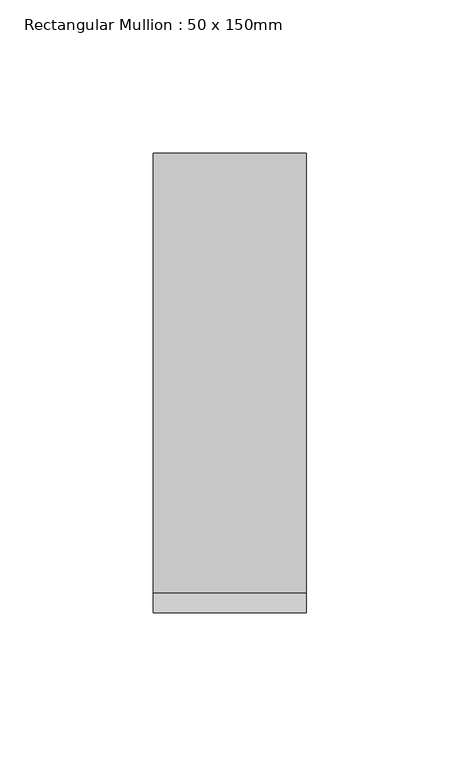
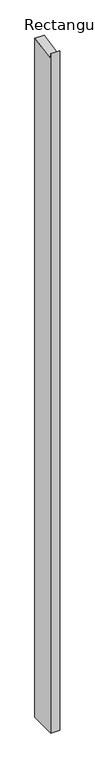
"""IFC4 building model written with IfcOpenShell, lengths in millimetres: member geometry, Rectangular Mullion : 50 x 150mm."""

from ifc_helpers import new_model, si_unit, frame, origin, place, context, project, spatial, polyline, outline, extrude, source, transform, mapped, element, save


def rectangular_mullion_50_x_150mm_ac5ca7ae(model_context):
    return source(origin(), model_context, "Body", "SweptSolid", [
        extrude(outline(polyline([(-75.0, 17.4234614), (-68.4846923, -14.4948974), (75.0, 14.7937927), (75.0, -3925.0), (-75.0, -3925.0), (-75.0, 17.4234614)])), frame((-50.0, 0.0, 0.0), z_axis=(1.0, 0.0, 0.0), x_axis=(0.0, 1.0, 0.0)), (0.0, 0.0, 1.0), 50.0),
    ])


if __name__ == "__main__":
    model = new_model("IFC4")
    model_context = context("Model", 3, world=origin())
    ifc_project = project(units=[si_unit("LENGTHUNIT", "METRE", prefix="MILLI")], contexts=[model_context])
    site = spatial("IfcSite", under=ifc_project)
    building = spatial("IfcBuilding", under=site)
    placement = place(None, origin())
    rectangular_mullion_50_x_150mm_shape = rectangular_mullion_50_x_150mm_ac5ca7ae(model_context)
    element("IfcMember", 1, ObjectType="Rectangular Mullion : 50 x 150mm", at=placement, inside=building, context=model_context, shape_type="MappedRepresentation", body=[
        mapped(rectangular_mullion_50_x_150mm_shape, transform((0.0, 0.0, 0.0), x_axis=(1.0, 0.0, 0.0), y_axis=(0.0, 1.0, 0.0), z_axis=(0.0, 0.0, 1.0))),
    ])
    save(model, "model.ifc")
